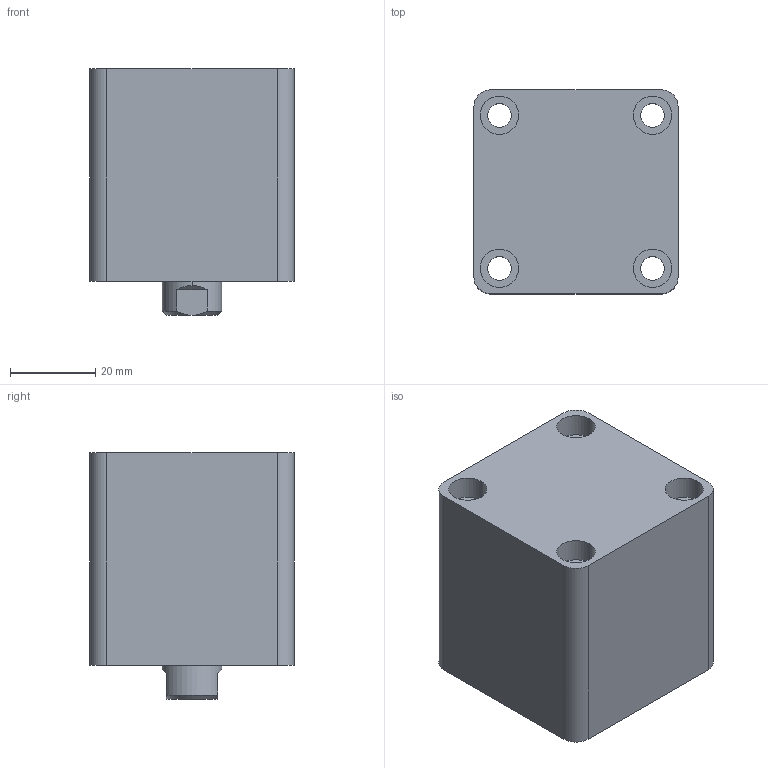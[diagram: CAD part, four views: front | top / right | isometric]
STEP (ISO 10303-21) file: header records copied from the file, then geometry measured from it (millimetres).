
FILE_DESCRIPTION (( 'STEP AP203' ), '1' );
FILE_NAME ('HTB-SD25-5N.STEP', '2019-10-07T05:53:47', ( '微软用户' ), ( '微软中国' ), 'SwSTEP 2.0', 'SolidWorks 2012', '' );
FILE_SCHEMA (( 'CONFIG_CONTROL_DESIGN' ));
Length unit declared in the file: millimetre
Products named in the file (3): HTB-SD25-5N活塞杆; HTB-SD25-5N; HTB-SD25-5掛极
Assembly tree (2 placements, depth 2):
  HTB-SD25-5N
    HTB-SD25-5掛极
    HTB-SD25-5N活塞杆
Bounding box: 48 x 48 x 58 mm (x, y, z)
Volume: 105438.2 mm3; surface area: 25338.9 mm2
Topology: 2 solids, 2 shells, 83 faces, 182 edges, 117 vertices
Faces by surface type: cylinder 42, plane 27, cone 8, torus 6
Entity records: 2653 total; most frequent: DIRECTION 454, CARTESIAN_POINT 429, ORIENTED_EDGE 360, AXIS2_PLACEMENT_3D 194, EDGE_CURVE 180, VERTEX_POINT 117, EDGE_LOOP 107, CIRCLE 106
